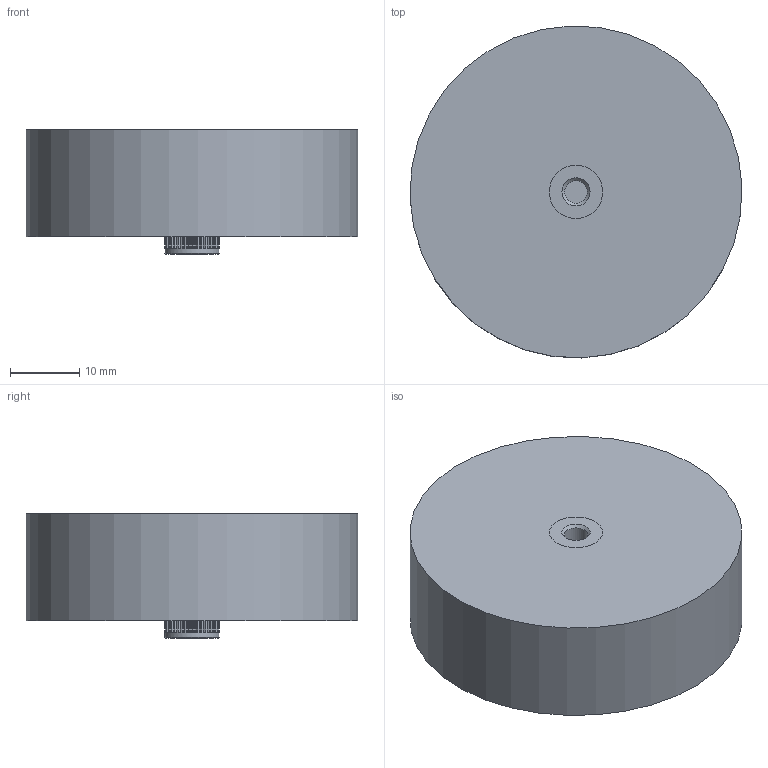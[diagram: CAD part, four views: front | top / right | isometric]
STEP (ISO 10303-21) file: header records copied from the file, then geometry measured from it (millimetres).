
FILE_DESCRIPTION((''),'2;1');
FILE_NAME('I:\Marketing\M6t1\M6T1 - Internal\Drawings\Werk 3\Finished product\Ceramite\Upload for homepage\715\715C10KTD50.stp','2013-06-07T14:38:47',('sherden'),(''),'Autodesk Inventor 2013','Autodesk Inventor 2013','');
FILE_SCHEMA(('CONFIG_CONTROL_DESIGN'));
Length unit declared in the file: millimetre
Products named in the file (1): 715C10KTD50
Bounding box: 47.97 x 47.97 x 18 mm (x, y, z)
Volume: 28012.6 mm3; surface area: 6130.8 mm2
Topology: 1 solids, 1 shells, 173 faces, 499 edges, 332 vertices
Faces by surface type: plane 166, cylinder 4, cone 3
Full cylindrical faces by diameter (mm): 3.302 x2, 7.95 x1, 48 x1
Entity records: 5824 total; most frequent: CARTESIAN_POINT 996, ORIENTED_EDGE 982, DIRECTION 930, EDGE_CURVE 491, VECTOR 400, LINE 400, VERTEX_POINT 331, AXIS2_PLACEMENT_3D 265
